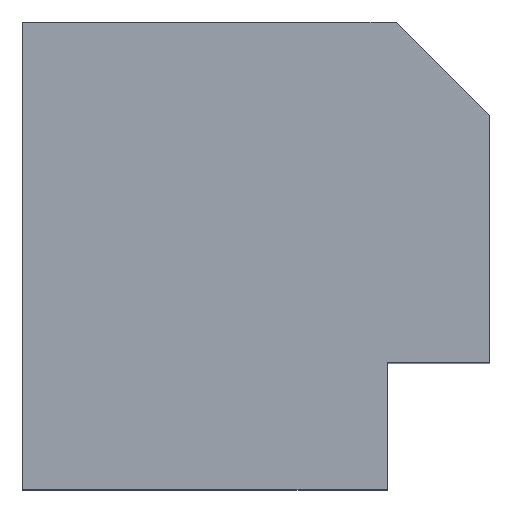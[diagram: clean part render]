
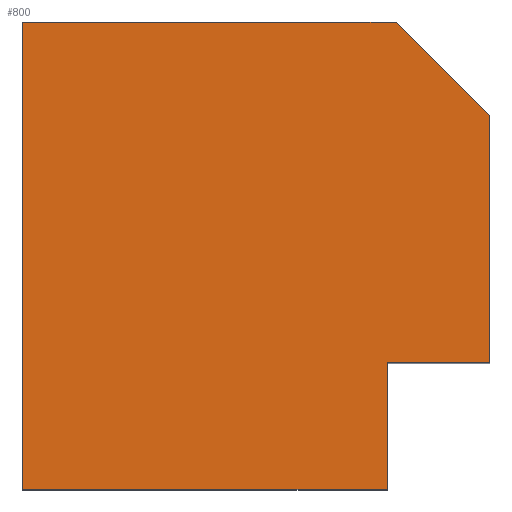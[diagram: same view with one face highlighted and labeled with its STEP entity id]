
A CAD part, top view. The second image highlights one B-rep face of the part: STEP entity #800.
In plain terms, the highlighted planar face has unit normal (0, 0, 1).
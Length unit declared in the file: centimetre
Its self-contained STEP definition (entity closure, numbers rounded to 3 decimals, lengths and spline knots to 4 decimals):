
#24 = DIRECTION ( 'NONE',  ( -0.707, 0.707, 0. ) ) ;
#32 = VECTOR ( 'NONE', #185, 100. ) ;
#39 = VERTEX_POINT ( 'NONE', #1200 ) ;
#40 = CARTESIAN_POINT ( 'NONE',  ( 0., 1000., 1000. ) ) ;
#42 = EDGE_CURVE ( 'NONE', #739, #252, #1193, .T. ) ;
#81 = CARTESIAN_POINT ( 'NONE',  ( 780.8159, 270.1328, 1000. ) ) ;
#117 = CARTESIAN_POINT ( 'NONE',  ( 899.881, 899.881, 1000. ) ) ;
#173 = LINE ( 'NONE', #1163, #353 ) ;
#185 = DIRECTION ( 'NONE',  ( -1., 0., 0. ) ) ;
#189 = VERTEX_POINT ( 'NONE', #638 ) ;
#203 = CARTESIAN_POINT ( 'NONE',  ( 1000., 1000., 1000. ) ) ;
#231 = CARTESIAN_POINT ( 'NONE',  ( 0., 0., 1000. ) ) ;
#252 = VERTEX_POINT ( 'NONE', #662 ) ;
#313 = LINE ( 'NONE', #81, #32 ) ;
#323 = VERTEX_POINT ( 'NONE', #989 ) ;
#331 = FACE_OUTER_BOUND ( 'NONE', #1180, .T. ) ;
#353 = VECTOR ( 'NONE', #367, 100. ) ;
#359 = DIRECTION ( 'NONE',  ( 0., 0., 1. ) ) ;
#367 = DIRECTION ( 'NONE',  ( 1., 0., 0. ) ) ;
#430 = ORIENTED_EDGE ( 'NONE', *, *, #949, .T. ) ;
#446 = ORIENTED_EDGE ( 'NONE', *, *, #42, .T. ) ;
#476 = DIRECTION ( 'NONE',  ( 0., -1., 0. ) ) ;
#479 = EDGE_CURVE ( 'NONE', #189, #643, #1029, .T. ) ;
#491 = VECTOR ( 'NONE', #476, 100. ) ;
#576 = CARTESIAN_POINT ( 'NONE',  ( 0., 0., 1000. ) ) ;
#638 = CARTESIAN_POINT ( 'NONE',  ( 0., 1000., 1000. ) ) ;
#643 = VERTEX_POINT ( 'NONE', #231 ) ;
#662 = CARTESIAN_POINT ( 'NONE',  ( 1000., 799.7619, 1000. ) ) ;
#682 = VECTOR ( 'NONE', #1083, 100. ) ;
#700 = VECTOR ( 'NONE', #1191, 100. ) ;
#739 = VERTEX_POINT ( 'NONE', #1237 ) ;
#766 = LINE ( 'NONE', #858, #700 ) ;
#774 = DIRECTION ( 'NONE',  ( 1., 0., 0. ) ) ;
#800 = ADVANCED_FACE ( 'NONE', ( #331 ), #1110, .T. ) ;
#843 = EDGE_CURVE ( 'NONE', #252, #323, #1104, .T. ) ;
#858 = CARTESIAN_POINT ( 'NONE',  ( 780.8159, 0., 1000. ) ) ;
#861 = AXIS2_PLACEMENT_3D ( 'NONE', #576, #359, #774 ) ;
#874 = VERTEX_POINT ( 'NONE', #1014 ) ;
#949 = EDGE_CURVE ( 'NONE', #643, #39, #173, .T. ) ;
#961 = CARTESIAN_POINT ( 'NONE',  ( 0., 1000., 1000. ) ) ;
#972 = ORIENTED_EDGE ( 'NONE', *, *, #1097, .F. ) ;
#975 = LINE ( 'NONE', #961, #1088 ) ;
#989 = CARTESIAN_POINT ( 'NONE',  ( 799.7619, 1000., 1000. ) ) ;
#1014 = CARTESIAN_POINT ( 'NONE',  ( 780.8159, 270.1328, 1000. ) ) ;
#1029 = LINE ( 'NONE', #40, #491 ) ;
#1064 = VECTOR ( 'NONE', #24, 100. ) ;
#1075 = ORIENTED_EDGE ( 'NONE', *, *, #1115, .F. ) ;
#1083 = DIRECTION ( 'NONE',  ( 0., 1., 0. ) ) ;
#1088 = VECTOR ( 'NONE', #1197, 100. ) ;
#1097 = EDGE_CURVE ( 'NONE', #874, #39, #766, .T. ) ;
#1104 = LINE ( 'NONE', #117, #1064 ) ;
#1110 = PLANE ( 'NONE',  #861 ) ;
#1111 = ORIENTED_EDGE ( 'NONE', *, *, #479, .T. ) ;
#1115 = EDGE_CURVE ( 'NONE', #739, #874, #313, .T. ) ;
#1158 = ORIENTED_EDGE ( 'NONE', *, *, #843, .T. ) ;
#1163 = CARTESIAN_POINT ( 'NONE',  ( 0., 0., 1000. ) ) ;
#1180 = EDGE_LOOP ( 'NONE', ( #972, #1075, #446, #1158, #1310, #1111, #430 ) ) ;
#1191 = DIRECTION ( 'NONE',  ( 0., -1., 0. ) ) ;
#1193 = LINE ( 'NONE', #203, #682 ) ;
#1197 = DIRECTION ( 'NONE',  ( -1., 0., 0. ) ) ;
#1200 = CARTESIAN_POINT ( 'NONE',  ( 780.8159, 0., 1000. ) ) ;
#1222 = EDGE_CURVE ( 'NONE', #323, #189, #975, .T. ) ;
#1237 = CARTESIAN_POINT ( 'NONE',  ( 1000., 270.1328, 1000. ) ) ;
#1310 = ORIENTED_EDGE ( 'NONE', *, *, #1222, .T. ) ;
